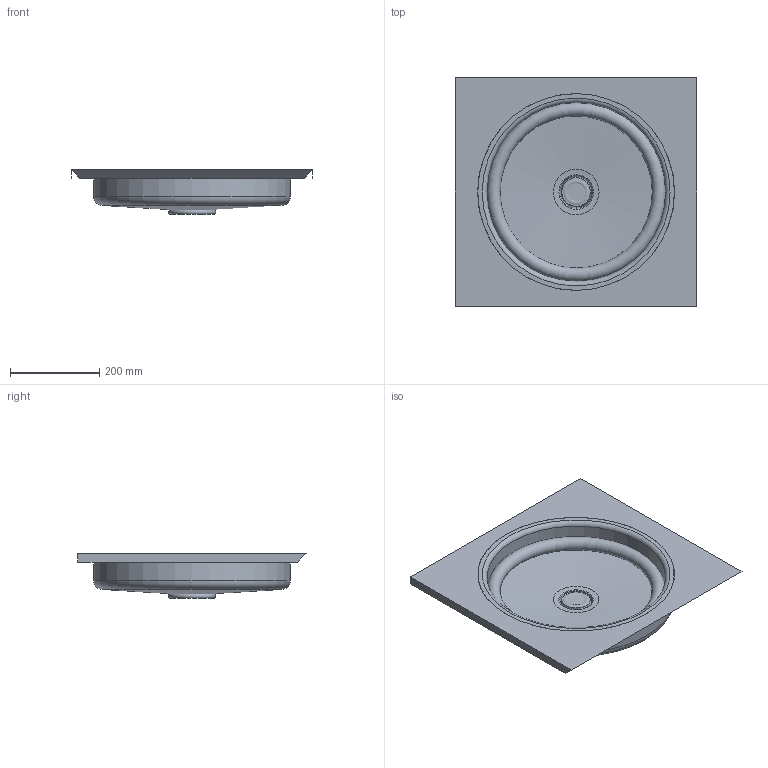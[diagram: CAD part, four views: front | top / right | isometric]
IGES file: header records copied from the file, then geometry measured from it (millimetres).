
Start section: Data from Parasolid IGES Translator 22.0.50, Copyright(c) 2006 Siemens P LM Software. All Rights Reserved.
Global section: file name: noorth-top-H 1,9 D 51,2 W 54_round.igs; native system: By Siemens PLM Incorporated; preprocessor: XPlus GENERIC/IGES 22.0.50; author: Noname; organization: Noname; date: 20251104.075309; units: metre
Bounding box: 540 x 510.08 x 99.79 mm (x, y, z)
Volume: 7480757.2 mm3; surface area: 878537.6 mm2
Topology: 6 solids, 6 shells, 49 faces, 84 edges, 48 vertices
Faces by surface type: plane 25, cylinder 9, cone 9, torus 6
Full cylindrical faces by diameter (mm): 4 x2, 34 x2, 46 x1, 64 x1, 400 x1, 440 x2
